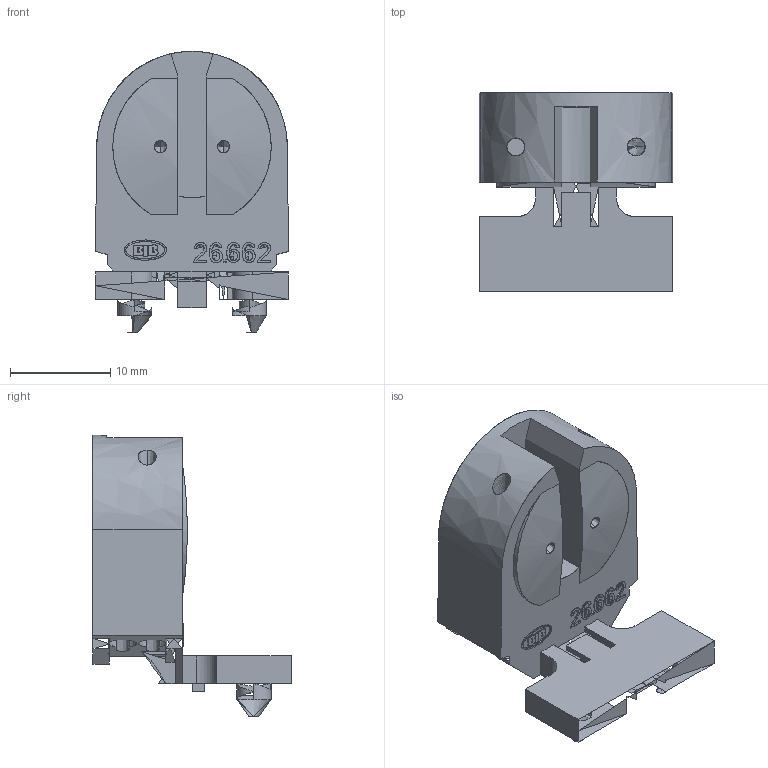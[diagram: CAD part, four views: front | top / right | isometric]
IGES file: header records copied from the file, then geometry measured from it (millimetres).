
Global section: file name: C:\Programme\core_technologie\in\00TY502Y06.igs; native system: CT CoreTechnologie 3D Evolution; preprocessor: 2006; author: assmuth; date: 090904.074722; units: millimetre
Bounding box: 19.25 x 19.75 x 28.04 mm (x, y, z)
Surface area: 2521 mm2 (no closed solid volume)
Topology: 0 solids, 0 shells, 269 faces, 1358 edges, 1313 vertices
Faces by surface type: bspline 269
